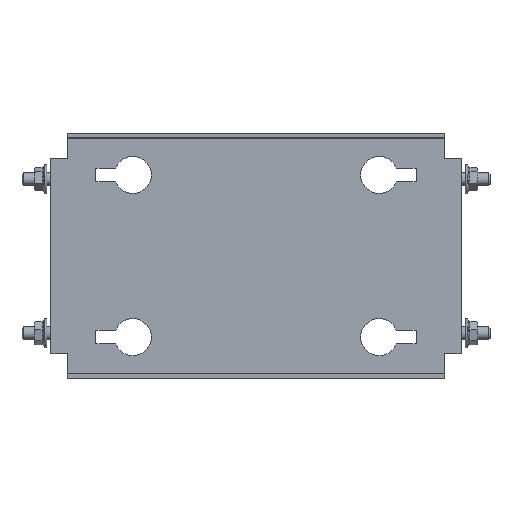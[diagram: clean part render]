
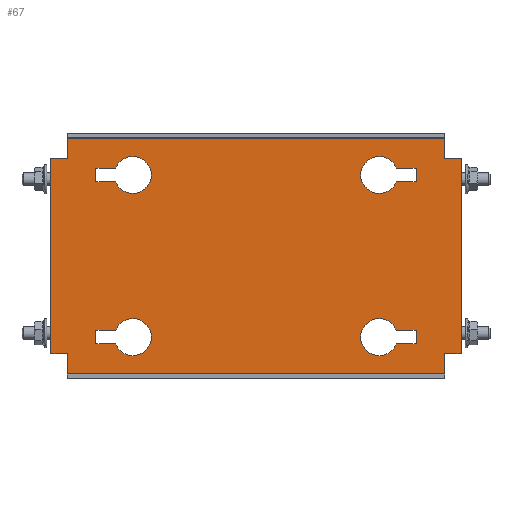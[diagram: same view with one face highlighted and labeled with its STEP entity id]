
A CAD part, top view. The second image highlights one B-rep face of the part: STEP entity #67.
In plain terms, the highlighted planar face has unit normal (0, 0, 1).
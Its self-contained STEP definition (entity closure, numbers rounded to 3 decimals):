
#67 = ADVANCED_FACE('',(#68,#103,#138,#300,#335),#370,.T.);
#68 = FACE_BOUND('',#69,.T.);
#69 = EDGE_LOOP('',(#70,#80,#88,#96));
#70 = ORIENTED_EDGE('',*,*,#71,.T.);
#71 = EDGE_CURVE('',#72,#74,#76,.T.);
#72 = VERTEX_POINT('',#73);
#73 = CARTESIAN_POINT('',(68.393,42.75,2.));
#74 = VERTEX_POINT('',#75);
#75 = CARTESIAN_POINT('',(78.,42.75,2.));
#76 = LINE('',#77,#78);
#77 = CARTESIAN_POINT('',(77.,42.75,2.));
#78 = VECTOR('',#79,1.);
#79 = DIRECTION('',(1.,0.,0.));
#80 = ORIENTED_EDGE('',*,*,#81,.T.);
#81 = EDGE_CURVE('',#74,#82,#84,.T.);
#82 = VERTEX_POINT('',#83);
#83 = CARTESIAN_POINT('',(78.,36.25,2.));
#84 = LINE('',#85,#86);
#85 = CARTESIAN_POINT('',(78.,42.75,2.));
#86 = VECTOR('',#87,1.);
#87 = DIRECTION('',(0.,-1.,0.));
#88 = ORIENTED_EDGE('',*,*,#89,.T.);
#89 = EDGE_CURVE('',#82,#90,#92,.T.);
#90 = VERTEX_POINT('',#91);
#91 = CARTESIAN_POINT('',(68.393,36.25,2.));
#92 = LINE('',#93,#94);
#93 = CARTESIAN_POINT('',(77.,36.25,2.));
#94 = VECTOR('',#95,1.);
#95 = DIRECTION('',(-1.,0.,0.));
#96 = ORIENTED_EDGE('',*,*,#97,.T.);
#97 = EDGE_CURVE('',#90,#72,#98,.T.);
#98 = CIRCLE('',#99,9.);
#99 = AXIS2_PLACEMENT_3D('',#100,#101,#102);
#100 = CARTESIAN_POINT('',(60.,39.5,2.));
#101 = DIRECTION('',(0.,0.,-1.));
#102 = DIRECTION('',(1.,0.,0.));
#103 = FACE_BOUND('',#104,.T.);
#104 = EDGE_LOOP('',(#105,#115,#123,#131));
#105 = ORIENTED_EDGE('',*,*,#106,.T.);
#106 = EDGE_CURVE('',#107,#109,#111,.T.);
#107 = VERTEX_POINT('',#108);
#108 = CARTESIAN_POINT('',(-68.393,-42.75,2.));
#109 = VERTEX_POINT('',#110);
#110 = CARTESIAN_POINT('',(-78.,-42.75,2.));
#111 = LINE('',#112,#113);
#112 = CARTESIAN_POINT('',(-77.,-42.75,2.));
#113 = VECTOR('',#114,1.);
#114 = DIRECTION('',(-1.,0.,0.));
#115 = ORIENTED_EDGE('',*,*,#116,.T.);
#116 = EDGE_CURVE('',#109,#117,#119,.T.);
#117 = VERTEX_POINT('',#118);
#118 = CARTESIAN_POINT('',(-78.,-36.25,2.));
#119 = LINE('',#120,#121);
#120 = CARTESIAN_POINT('',(-78.,-42.75,2.));
#121 = VECTOR('',#122,1.);
#122 = DIRECTION('',(0.,1.,0.));
#123 = ORIENTED_EDGE('',*,*,#124,.T.);
#124 = EDGE_CURVE('',#117,#125,#127,.T.);
#125 = VERTEX_POINT('',#126);
#126 = CARTESIAN_POINT('',(-68.393,-36.25,2.));
#127 = LINE('',#128,#129);
#128 = CARTESIAN_POINT('',(-77.,-36.25,2.));
#129 = VECTOR('',#130,1.);
#130 = DIRECTION('',(1.,-0.,-0.));
#131 = ORIENTED_EDGE('',*,*,#132,.T.);
#132 = EDGE_CURVE('',#125,#107,#133,.T.);
#133 = CIRCLE('',#134,9.);
#134 = AXIS2_PLACEMENT_3D('',#135,#136,#137);
#135 = CARTESIAN_POINT('',(-60.,-39.5,2.));
#136 = DIRECTION('',(0.,0.,-1.));
#137 = DIRECTION('',(-1.,0.,0.));
#138 = FACE_BOUND('',#139,.T.);
#139 = EDGE_LOOP('',(#140,#150,#158,#166,#174,#182,#190,#198,#206,#214,
    #222,#230,#238,#246,#254,#262,#270,#278,#286,#294));
#140 = ORIENTED_EDGE('',*,*,#141,.F.);
#141 = EDGE_CURVE('',#142,#144,#146,.T.);
#142 = VERTEX_POINT('',#143);
#143 = CARTESIAN_POINT('',(-97.4,47.5,2.));
#144 = VERTEX_POINT('',#145);
#145 = CARTESIAN_POINT('',(-92.,47.5,2.));
#146 = LINE('',#147,#148);
#147 = CARTESIAN_POINT('',(-98.,47.5,2.));
#148 = VECTOR('',#149,1.);
#149 = DIRECTION('',(1.,0.,-0.));
#150 = ORIENTED_EDGE('',*,*,#151,.T.);
#151 = EDGE_CURVE('',#142,#152,#154,.T.);
#152 = VERTEX_POINT('',#153);
#153 = CARTESIAN_POINT('',(-100.,47.5,2.));
#154 = LINE('',#155,#156);
#155 = CARTESIAN_POINT('',(-97.4,47.5,2.));
#156 = VECTOR('',#157,1.);
#157 = DIRECTION('',(-1.,0.,0.));
#158 = ORIENTED_EDGE('',*,*,#159,.F.);
#159 = EDGE_CURVE('',#160,#152,#162,.T.);
#160 = VERTEX_POINT('',#161);
#161 = CARTESIAN_POINT('',(-100.,-47.5,2.));
#162 = LINE('',#163,#164);
#163 = CARTESIAN_POINT('',(-100.,-57.5,2.));
#164 = VECTOR('',#165,1.);
#165 = DIRECTION('',(0.,1.,-0.));
#166 = ORIENTED_EDGE('',*,*,#167,.F.);
#167 = EDGE_CURVE('',#168,#160,#170,.T.);
#168 = VERTEX_POINT('',#169);
#169 = CARTESIAN_POINT('',(-97.4,-47.5,2.));
#170 = LINE('',#171,#172);
#171 = CARTESIAN_POINT('',(-92.,-47.5,2.));
#172 = VECTOR('',#173,1.);
#173 = DIRECTION('',(-1.,-0.,-0.));
#174 = ORIENTED_EDGE('',*,*,#175,.T.);
#175 = EDGE_CURVE('',#168,#176,#178,.T.);
#176 = VERTEX_POINT('',#177);
#177 = CARTESIAN_POINT('',(-92.,-47.5,2.));
#178 = LINE('',#179,#180);
#179 = CARTESIAN_POINT('',(-98.,-47.5,2.));
#180 = VECTOR('',#181,1.);
#181 = DIRECTION('',(1.,0.,-0.));
#182 = ORIENTED_EDGE('',*,*,#183,.T.);
#183 = EDGE_CURVE('',#176,#184,#186,.T.);
#184 = VERTEX_POINT('',#185);
#185 = CARTESIAN_POINT('',(-92.,-56.9,2.));
#186 = LINE('',#187,#188);
#187 = CARTESIAN_POINT('',(-92.,57.5,2.));
#188 = VECTOR('',#189,1.);
#189 = DIRECTION('',(0.,-1.,0.));
#190 = ORIENTED_EDGE('',*,*,#191,.T.);
#191 = EDGE_CURVE('',#184,#192,#194,.T.);
#192 = VERTEX_POINT('',#193);
#193 = CARTESIAN_POINT('',(-92.,-57.5,2.));
#194 = LINE('',#195,#196);
#195 = CARTESIAN_POINT('',(-92.,-56.9,2.));
#196 = VECTOR('',#197,1.);
#197 = DIRECTION('',(-0.,-1.,-0.));
#198 = ORIENTED_EDGE('',*,*,#199,.T.);
#199 = EDGE_CURVE('',#192,#200,#202,.T.);
#200 = VERTEX_POINT('',#201);
#201 = CARTESIAN_POINT('',(92.,-57.5,2.));
#202 = LINE('',#203,#204);
#203 = CARTESIAN_POINT('',(92.,-57.5,2.));
#204 = VECTOR('',#205,1.);
#205 = DIRECTION('',(1.,0.,0.));
#206 = ORIENTED_EDGE('',*,*,#207,.F.);
#207 = EDGE_CURVE('',#208,#200,#210,.T.);
#208 = VERTEX_POINT('',#209);
#209 = CARTESIAN_POINT('',(92.,-56.9,2.));
#210 = LINE('',#211,#212);
#211 = CARTESIAN_POINT('',(92.,-57.5,2.));
#212 = VECTOR('',#213,1.);
#213 = DIRECTION('',(0.,-1.,0.));
#214 = ORIENTED_EDGE('',*,*,#215,.T.);
#215 = EDGE_CURVE('',#208,#216,#218,.T.);
#216 = VERTEX_POINT('',#217);
#217 = CARTESIAN_POINT('',(92.,-47.5,2.));
#218 = LINE('',#219,#220);
#219 = CARTESIAN_POINT('',(92.,57.5,2.));
#220 = VECTOR('',#221,1.);
#221 = DIRECTION('',(0.,1.,-0.));
#222 = ORIENTED_EDGE('',*,*,#223,.F.);
#223 = EDGE_CURVE('',#224,#216,#226,.T.);
#224 = VERTEX_POINT('',#225);
#225 = CARTESIAN_POINT('',(97.4,-47.5,2.));
#226 = LINE('',#227,#228);
#227 = CARTESIAN_POINT('',(98.,-47.5,2.));
#228 = VECTOR('',#229,1.);
#229 = DIRECTION('',(-1.,0.,-0.));
#230 = ORIENTED_EDGE('',*,*,#231,.T.);
#231 = EDGE_CURVE('',#224,#232,#234,.T.);
#232 = VERTEX_POINT('',#233);
#233 = CARTESIAN_POINT('',(100.,-47.5,2.));
#234 = LINE('',#235,#236);
#235 = CARTESIAN_POINT('',(97.4,-47.5,2.));
#236 = VECTOR('',#237,1.);
#237 = DIRECTION('',(1.,-0.,0.));
#238 = ORIENTED_EDGE('',*,*,#239,.F.);
#239 = EDGE_CURVE('',#240,#232,#242,.T.);
#240 = VERTEX_POINT('',#241);
#241 = CARTESIAN_POINT('',(100.,47.5,2.));
#242 = LINE('',#243,#244);
#243 = CARTESIAN_POINT('',(100.,-57.5,2.));
#244 = VECTOR('',#245,1.);
#245 = DIRECTION('',(0.,-1.,-0.));
#246 = ORIENTED_EDGE('',*,*,#247,.F.);
#247 = EDGE_CURVE('',#248,#240,#250,.T.);
#248 = VERTEX_POINT('',#249);
#249 = CARTESIAN_POINT('',(97.4,47.5,2.));
#250 = LINE('',#251,#252);
#251 = CARTESIAN_POINT('',(-92.,47.5,2.));
#252 = VECTOR('',#253,1.);
#253 = DIRECTION('',(1.,-0.,0.));
#254 = ORIENTED_EDGE('',*,*,#255,.T.);
#255 = EDGE_CURVE('',#248,#256,#258,.T.);
#256 = VERTEX_POINT('',#257);
#257 = CARTESIAN_POINT('',(92.,47.5,2.));
#258 = LINE('',#259,#260);
#259 = CARTESIAN_POINT('',(98.,47.5,2.));
#260 = VECTOR('',#261,1.);
#261 = DIRECTION('',(-1.,0.,-0.));
#262 = ORIENTED_EDGE('',*,*,#263,.T.);
#263 = EDGE_CURVE('',#256,#264,#266,.T.);
#264 = VERTEX_POINT('',#265);
#265 = CARTESIAN_POINT('',(92.,56.9,2.));
#266 = LINE('',#267,#268);
#267 = CARTESIAN_POINT('',(92.,57.5,2.));
#268 = VECTOR('',#269,1.);
#269 = DIRECTION('',(0.,1.,-0.));
#270 = ORIENTED_EDGE('',*,*,#271,.T.);
#271 = EDGE_CURVE('',#264,#272,#274,.T.);
#272 = VERTEX_POINT('',#273);
#273 = CARTESIAN_POINT('',(92.,57.5,2.));
#274 = LINE('',#275,#276);
#275 = CARTESIAN_POINT('',(92.,56.9,2.));
#276 = VECTOR('',#277,1.);
#277 = DIRECTION('',(-0.,1.,-0.));
#278 = ORIENTED_EDGE('',*,*,#279,.T.);
#279 = EDGE_CURVE('',#272,#280,#282,.T.);
#280 = VERTEX_POINT('',#281);
#281 = CARTESIAN_POINT('',(-92.,57.5,2.));
#282 = LINE('',#283,#284);
#283 = CARTESIAN_POINT('',(-92.,57.5,2.));
#284 = VECTOR('',#285,1.);
#285 = DIRECTION('',(-1.,0.,0.));
#286 = ORIENTED_EDGE('',*,*,#287,.F.);
#287 = EDGE_CURVE('',#288,#280,#290,.T.);
#288 = VERTEX_POINT('',#289);
#289 = CARTESIAN_POINT('',(-92.,56.9,2.));
#290 = LINE('',#291,#292);
#291 = CARTESIAN_POINT('',(-92.,-57.5,2.));
#292 = VECTOR('',#293,1.);
#293 = DIRECTION('',(0.,1.,-0.));
#294 = ORIENTED_EDGE('',*,*,#295,.T.);
#295 = EDGE_CURVE('',#288,#144,#296,.T.);
#296 = LINE('',#297,#298);
#297 = CARTESIAN_POINT('',(-92.,57.5,2.));
#298 = VECTOR('',#299,1.);
#299 = DIRECTION('',(0.,-1.,0.));
#300 = FACE_BOUND('',#301,.T.);
#301 = EDGE_LOOP('',(#302,#312,#320,#328));
#302 = ORIENTED_EDGE('',*,*,#303,.F.);
#303 = EDGE_CURVE('',#304,#306,#308,.T.);
#304 = VERTEX_POINT('',#305);
#305 = CARTESIAN_POINT('',(78.,-36.25,2.));
#306 = VERTEX_POINT('',#307);
#307 = CARTESIAN_POINT('',(68.393,-36.25,2.));
#308 = LINE('',#309,#310);
#309 = CARTESIAN_POINT('',(68.393,-36.25,2.));
#310 = VECTOR('',#311,1.);
#311 = DIRECTION('',(-1.,0.,0.));
#312 = ORIENTED_EDGE('',*,*,#313,.F.);
#313 = EDGE_CURVE('',#314,#304,#316,.T.);
#314 = VERTEX_POINT('',#315);
#315 = CARTESIAN_POINT('',(78.,-42.75,2.));
#316 = LINE('',#317,#318);
#317 = CARTESIAN_POINT('',(78.,-36.25,2.));
#318 = VECTOR('',#319,1.);
#319 = DIRECTION('',(0.,1.,0.));
#320 = ORIENTED_EDGE('',*,*,#321,.F.);
#321 = EDGE_CURVE('',#322,#314,#324,.T.);
#322 = VERTEX_POINT('',#323);
#323 = CARTESIAN_POINT('',(68.393,-42.75,2.));
#324 = LINE('',#325,#326);
#325 = CARTESIAN_POINT('',(77.,-42.75,2.));
#326 = VECTOR('',#327,1.);
#327 = DIRECTION('',(1.,0.,0.));
#328 = ORIENTED_EDGE('',*,*,#329,.F.);
#329 = EDGE_CURVE('',#306,#322,#330,.T.);
#330 = CIRCLE('',#331,9.);
#331 = AXIS2_PLACEMENT_3D('',#332,#333,#334);
#332 = CARTESIAN_POINT('',(60.,-39.5,2.));
#333 = DIRECTION('',(0.,-0.,1.));
#334 = DIRECTION('',(1.,0.,0.));
#335 = FACE_BOUND('',#336,.T.);
#336 = EDGE_LOOP('',(#337,#347,#355,#363));
#337 = ORIENTED_EDGE('',*,*,#338,.F.);
#338 = EDGE_CURVE('',#339,#341,#343,.T.);
#339 = VERTEX_POINT('',#340);
#340 = CARTESIAN_POINT('',(-78.,36.25,2.));
#341 = VERTEX_POINT('',#342);
#342 = CARTESIAN_POINT('',(-68.393,36.25,2.));
#343 = LINE('',#344,#345);
#344 = CARTESIAN_POINT('',(-68.393,36.25,2.));
#345 = VECTOR('',#346,1.);
#346 = DIRECTION('',(1.,0.,0.));
#347 = ORIENTED_EDGE('',*,*,#348,.F.);
#348 = EDGE_CURVE('',#349,#339,#351,.T.);
#349 = VERTEX_POINT('',#350);
#350 = CARTESIAN_POINT('',(-78.,42.75,2.));
#351 = LINE('',#352,#353);
#352 = CARTESIAN_POINT('',(-78.,36.25,2.));
#353 = VECTOR('',#354,1.);
#354 = DIRECTION('',(0.,-1.,0.));
#355 = ORIENTED_EDGE('',*,*,#356,.F.);
#356 = EDGE_CURVE('',#357,#349,#359,.T.);
#357 = VERTEX_POINT('',#358);
#358 = CARTESIAN_POINT('',(-68.393,42.75,2.));
#359 = LINE('',#360,#361);
#360 = CARTESIAN_POINT('',(-77.,42.75,2.));
#361 = VECTOR('',#362,1.);
#362 = DIRECTION('',(-1.,0.,0.));
#363 = ORIENTED_EDGE('',*,*,#364,.F.);
#364 = EDGE_CURVE('',#341,#357,#365,.T.);
#365 = CIRCLE('',#366,9.);
#366 = AXIS2_PLACEMENT_3D('',#367,#368,#369);
#367 = CARTESIAN_POINT('',(-60.,39.5,2.));
#368 = DIRECTION('',(0.,-0.,1.));
#369 = DIRECTION('',(-1.,0.,0.));
#370 = PLANE('',#371);
#371 = AXIS2_PLACEMENT_3D('',#372,#373,#374);
#372 = CARTESIAN_POINT('',(-92.,-57.5,2.));
#373 = DIRECTION('',(-0.,0.,1.));
#374 = DIRECTION('',(1.,0.,0.));
